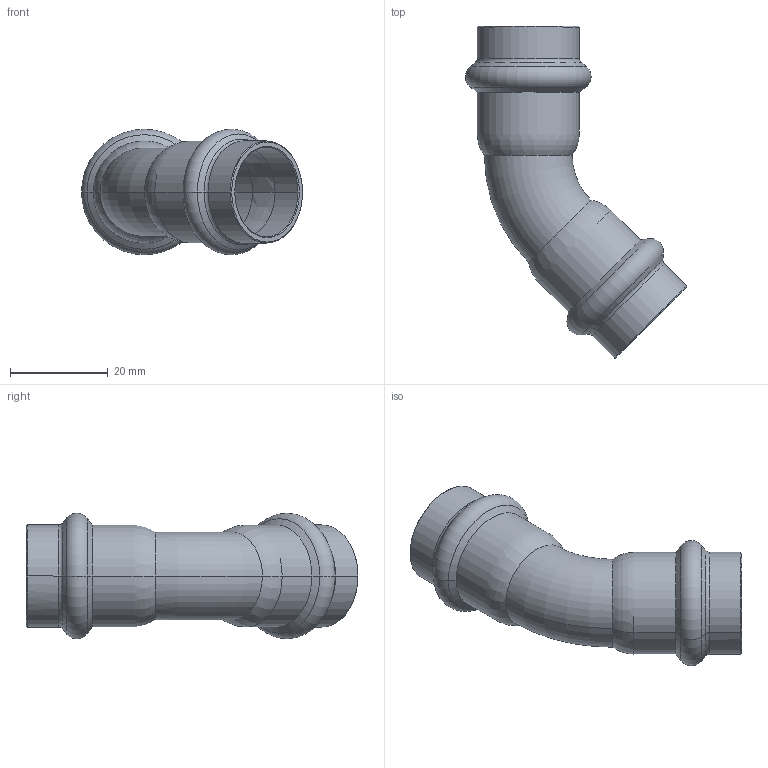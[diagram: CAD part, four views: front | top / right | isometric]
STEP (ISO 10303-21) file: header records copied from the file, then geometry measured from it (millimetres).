
FILE_DESCRIPTION(('CoCreate Modeling STEP Export'),'2;1');
FILE_NAME('8041VW18.stp','2013-01-29T14:18:41',(''),(''),'CoCreate Modeling STEP processor for AP214 (Solid Model)','CoCreate Modeling 17.00A 17-Jun-2010 (C) Parametric Technology GmbH','');
FILE_SCHEMA(('AUTOMOTIVE_DESIGN { 1 0 10303 214 1 1 1 1 }'));
Length unit declared in the file: millimetre
Products named in the file (1): 8041VW18
Bounding box: 45.23 x 67.93 x 25.7 mm (x, y, z)
Volume: 7046.9 mm3; surface area: 9130.3 mm2
Topology: 1 solids, 1 shells, 80 faces, 172 edges, 100 vertices
Faces by surface type: torus 28, cone 24, cylinder 20, plane 8
Entity records: 2180 total; most frequent: CARTESIAN_POINT 675, ORIENTED_EDGE 344, DIRECTION 280, EDGE_CURVE 172, AXIS2_PLACEMENT_3D 118, VERTEX_POINT 100, EDGE_LOOP 88, FACE_OUTER_BOUND 80
